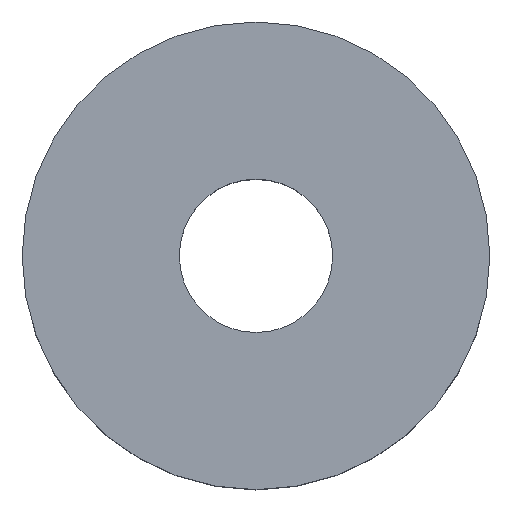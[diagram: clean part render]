
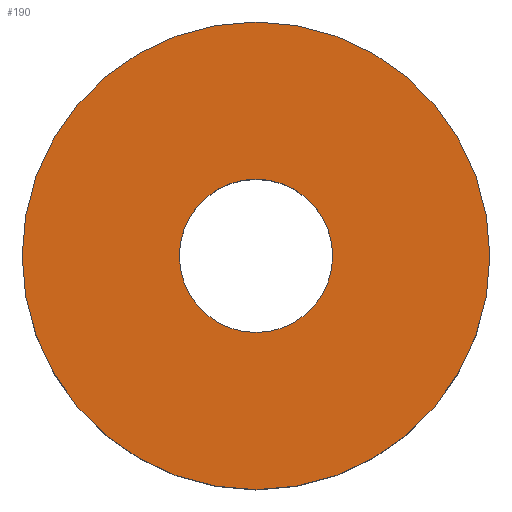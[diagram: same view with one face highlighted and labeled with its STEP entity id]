
A CAD part, top view. The second image highlights one B-rep face of the part: STEP entity #190.
In plain terms, the highlighted planar face has unit normal (0, 0, 1).
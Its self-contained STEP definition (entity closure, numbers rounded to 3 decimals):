
#24 = VERTEX_POINT('',#25);
#25 = CARTESIAN_POINT('',(61.,0.,45.));
#32 = CYLINDRICAL_SURFACE('',#33,61.);
#33 = AXIS2_PLACEMENT_3D('',#34,#35,#36);
#34 = CARTESIAN_POINT('',(0.,0.,0.));
#35 = DIRECTION('',(-0.,-0.,-1.));
#36 = DIRECTION('',(1.,0.,0.));
#51 = EDGE_CURVE('',#24,#24,#52,.T.);
#52 = SURFACE_CURVE('',#53,(#58,#65),.PCURVE_S1.);
#53 = CIRCLE('',#54,61.);
#54 = AXIS2_PLACEMENT_3D('',#55,#56,#57);
#55 = CARTESIAN_POINT('',(0.,0.,45.));
#56 = DIRECTION('',(0.,0.,1.));
#57 = DIRECTION('',(1.,0.,0.));
#58 = PCURVE('',#32,#59);
#59 = DEFINITIONAL_REPRESENTATION('',(#60),#64);
#60 = LINE('',#61,#62);
#61 = CARTESIAN_POINT('',(-0.,-45.));
#62 = VECTOR('',#63,1.);
#63 = DIRECTION('',(-1.,0.));
#64 = ( GEOMETRIC_REPRESENTATION_CONTEXT(2) 
PARAMETRIC_REPRESENTATION_CONTEXT() REPRESENTATION_CONTEXT('2D SPACE',''
  ) );
#65 = PCURVE('',#66,#71);
#66 = PLANE('',#67);
#67 = AXIS2_PLACEMENT_3D('',#68,#69,#70);
#68 = CARTESIAN_POINT('',(0.,0.,45.));
#69 = DIRECTION('',(0.,0.,1.));
#70 = DIRECTION('',(1.,0.,0.));
#71 = DEFINITIONAL_REPRESENTATION('',(#72),#76);
#72 = CIRCLE('',#73,61.);
#73 = AXIS2_PLACEMENT_2D('',#74,#75);
#74 = CARTESIAN_POINT('',(0.,0.));
#75 = DIRECTION('',(1.,0.));
#76 = ( GEOMETRIC_REPRESENTATION_CONTEXT(2) 
PARAMETRIC_REPRESENTATION_CONTEXT() REPRESENTATION_CONTEXT('2D SPACE',''
  ) );
#112 = VERTEX_POINT('',#113);
#113 = CARTESIAN_POINT('',(20.,0.,45.));
#120 = CYLINDRICAL_SURFACE('',#121,20.);
#121 = AXIS2_PLACEMENT_3D('',#122,#123,#124);
#122 = CARTESIAN_POINT('',(0.,0.,0.));
#123 = DIRECTION('',(-0.,-0.,-1.));
#124 = DIRECTION('',(1.,0.,0.));
#139 = EDGE_CURVE('',#112,#112,#140,.T.);
#140 = SURFACE_CURVE('',#141,(#146,#153),.PCURVE_S1.);
#141 = CIRCLE('',#142,20.);
#142 = AXIS2_PLACEMENT_3D('',#143,#144,#145);
#143 = CARTESIAN_POINT('',(0.,0.,45.));
#144 = DIRECTION('',(0.,0.,1.));
#145 = DIRECTION('',(1.,0.,0.));
#146 = PCURVE('',#120,#147);
#147 = DEFINITIONAL_REPRESENTATION('',(#148),#152);
#148 = LINE('',#149,#150);
#149 = CARTESIAN_POINT('',(-0.,-45.));
#150 = VECTOR('',#151,1.);
#151 = DIRECTION('',(-1.,0.));
#152 = ( GEOMETRIC_REPRESENTATION_CONTEXT(2) 
PARAMETRIC_REPRESENTATION_CONTEXT() REPRESENTATION_CONTEXT('2D SPACE',''
  ) );
#153 = PCURVE('',#66,#154);
#154 = DEFINITIONAL_REPRESENTATION('',(#155),#159);
#155 = CIRCLE('',#156,20.);
#156 = AXIS2_PLACEMENT_2D('',#157,#158);
#157 = CARTESIAN_POINT('',(0.,0.));
#158 = DIRECTION('',(1.,0.));
#159 = ( GEOMETRIC_REPRESENTATION_CONTEXT(2) 
PARAMETRIC_REPRESENTATION_CONTEXT() REPRESENTATION_CONTEXT('2D SPACE',''
  ) );
#190 = ADVANCED_FACE('',(#191,#194),#66,.T.);
#191 = FACE_BOUND('',#192,.T.);
#192 = EDGE_LOOP('',(#193));
#193 = ORIENTED_EDGE('',*,*,#51,.T.);
#194 = FACE_BOUND('',#195,.F.);
#195 = EDGE_LOOP('',(#196));
#196 = ORIENTED_EDGE('',*,*,#139,.T.);
